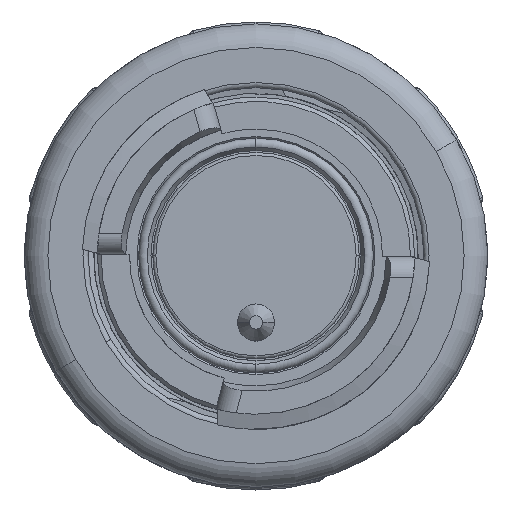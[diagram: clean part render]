
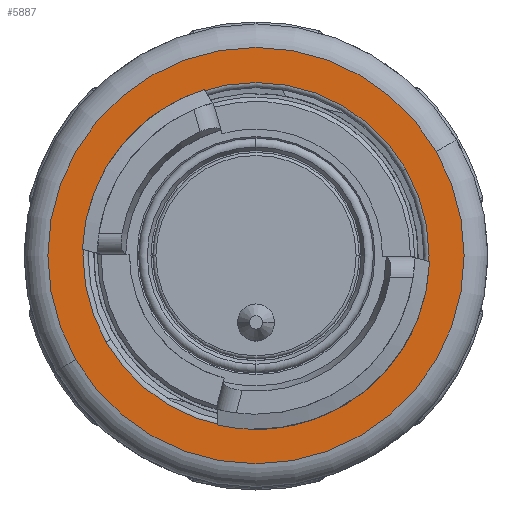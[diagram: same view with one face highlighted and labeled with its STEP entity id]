
A CAD part, top view. The second image highlights one B-rep face of the part: STEP entity #5887.
In plain terms, the highlighted planar face has unit normal (0, 0, 1).
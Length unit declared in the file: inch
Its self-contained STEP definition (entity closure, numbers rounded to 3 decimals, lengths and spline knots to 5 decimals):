
#661 = DIRECTION ( 'NONE',  ( 0., 0., -1. ) ) ;
#1562 = CIRCLE ( 'NONE', #34572, 0.39775 ) ;
#2279 = CARTESIAN_POINT ( 'NONE',  ( 0., 0., -0.18898 ) ) ;
#2710 = VERTEX_POINT ( 'NONE', #30871 ) ;
#3985 = CARTESIAN_POINT ( 'NONE',  ( 0.2864, 0.16535, -0.18898 ) ) ;
#4533 = DIRECTION ( 'NONE',  ( 0.866, 0.5, 0. ) ) ;
#5887 = ADVANCED_FACE ( 'NONE', ( #24615, #14589 ), #17480, .T. ) ;
#6851 = EDGE_CURVE ( 'NONE', #11368, #2710, #1562, .T. ) ;
#10731 = EDGE_LOOP ( 'NONE', ( #32506, #15456 ) ) ;
#10872 = ORIENTED_EDGE ( 'NONE', *, *, #32667, .T. ) ;
#11311 = DIRECTION ( 'NONE',  ( 0., 0., -1. ) ) ;
#11320 = CIRCLE ( 'NONE', #42773, 0.39775 ) ;
#11368 = VERTEX_POINT ( 'NONE', #24775 ) ;
#12018 = CARTESIAN_POINT ( 'NONE',  ( -0.2864, -0.16535, -0.18898 ) ) ;
#13661 = CIRCLE ( 'NONE', #32931, 0.33071 ) ;
#14589 = FACE_OUTER_BOUND ( 'NONE', #10731, .T. ) ;
#15411 = CIRCLE ( 'NONE', #21108, 0.33071 ) ;
#15456 = ORIENTED_EDGE ( 'NONE', *, *, #6851, .F. ) ;
#16912 = CARTESIAN_POINT ( 'NONE',  ( 0., 0., -0.18898 ) ) ;
#17480 = PLANE ( 'NONE',  #19678 ) ;
#19018 = EDGE_CURVE ( 'NONE', #24294, #28245, #15411, .T. ) ;
#19678 = AXIS2_PLACEMENT_3D ( 'NONE', #24175, #38109, #4533 ) ;
#21108 = AXIS2_PLACEMENT_3D ( 'NONE', #40145, #38099, #37249 ) ;
#24175 = CARTESIAN_POINT ( 'NONE',  ( -0.16535, 0.2864, -0.18898 ) ) ;
#24294 = VERTEX_POINT ( 'NONE', #3985 ) ;
#24615 = FACE_BOUND ( 'NONE', #40793, .T. ) ;
#24775 = CARTESIAN_POINT ( 'NONE',  ( 0.34446, 0.19887, -0.18898 ) ) ;
#24909 = DIRECTION ( 'NONE',  ( -0.866, -0.5, 0. ) ) ;
#26361 = DIRECTION ( 'NONE',  ( 0., 0., -1. ) ) ;
#28245 = VERTEX_POINT ( 'NONE', #12018 ) ;
#29156 = ORIENTED_EDGE ( 'NONE', *, *, #19018, .T. ) ;
#29521 = DIRECTION ( 'NONE',  ( -0.866, -0.5, 0. ) ) ;
#30871 = CARTESIAN_POINT ( 'NONE',  ( -0.34446, -0.19887, -0.18898 ) ) ;
#32506 = ORIENTED_EDGE ( 'NONE', *, *, #42882, .F. ) ;
#32667 = EDGE_CURVE ( 'NONE', #28245, #24294, #13661, .T. ) ;
#32931 = AXIS2_PLACEMENT_3D ( 'NONE', #41967, #11311, #24909 ) ;
#34385 = DIRECTION ( 'NONE',  ( -0.866, -0.5, 0. ) ) ;
#34572 = AXIS2_PLACEMENT_3D ( 'NONE', #2279, #26361, #29521 ) ;
#37249 = DIRECTION ( 'NONE',  ( -0.866, -0.5, 0. ) ) ;
#38099 = DIRECTION ( 'NONE',  ( 0., 0., -1. ) ) ;
#38109 = DIRECTION ( 'NONE',  ( 0., 0., 1. ) ) ;
#40145 = CARTESIAN_POINT ( 'NONE',  ( 0., 0., -0.18898 ) ) ;
#40793 = EDGE_LOOP ( 'NONE', ( #10872, #29156 ) ) ;
#41967 = CARTESIAN_POINT ( 'NONE',  ( 0., 0., -0.18898 ) ) ;
#42773 = AXIS2_PLACEMENT_3D ( 'NONE', #16912, #661, #34385 ) ;
#42882 = EDGE_CURVE ( 'NONE', #2710, #11368, #11320, .T. ) ;
